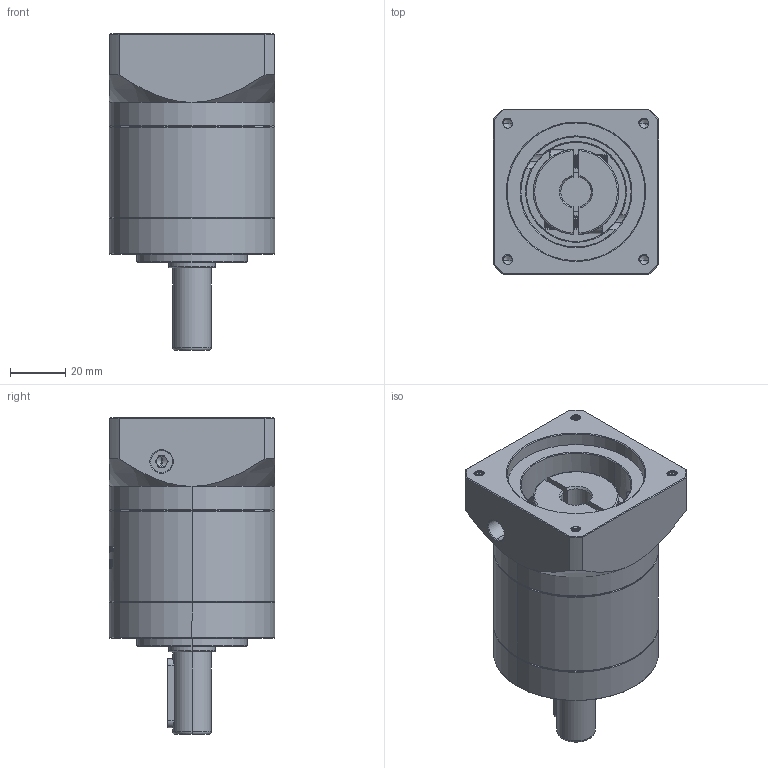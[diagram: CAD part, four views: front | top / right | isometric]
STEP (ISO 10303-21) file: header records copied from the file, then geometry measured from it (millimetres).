
FILE_DESCRIPTION (( 'STEP AP214' ), '1' );
FILE_NAME ('ZE60-D14-L1-11-50-70-M4.STEP', '2022-04-17T15:15:18', ( '' ), ( 'Microsoft' ), 'SwSTEP 2.0', 'SolidWorks 2016', '' );
FILE_SCHEMA (( 'AUTOMOTIVE_DESIGN' ));
Length unit declared in the file: millimetre
Products named in the file (1): ZE60-D14-L1-11-50-70-M4
Bounding box: 60 x 60 x 115 mm (x, y, z)
Volume: 213471.9 mm3; surface area: 42593.4 mm2
Topology: 6 solids, 6 shells, 1706 faces, 4640 edges, 3006 vertices
Faces by surface type: plane 732, cylinder 423, bspline 311, cone 220, torus 20
Entity records: 99990 total; most frequent: CARTESIAN_POINT 42565, ORIENTED_EDGE 9236, DIRECTION 6587, EDGE_CURVE 4618, VERTEX_POINT 3006, LINE 2297, VECTOR 2297, AXIS2_PLACEMENT_3D 2145
